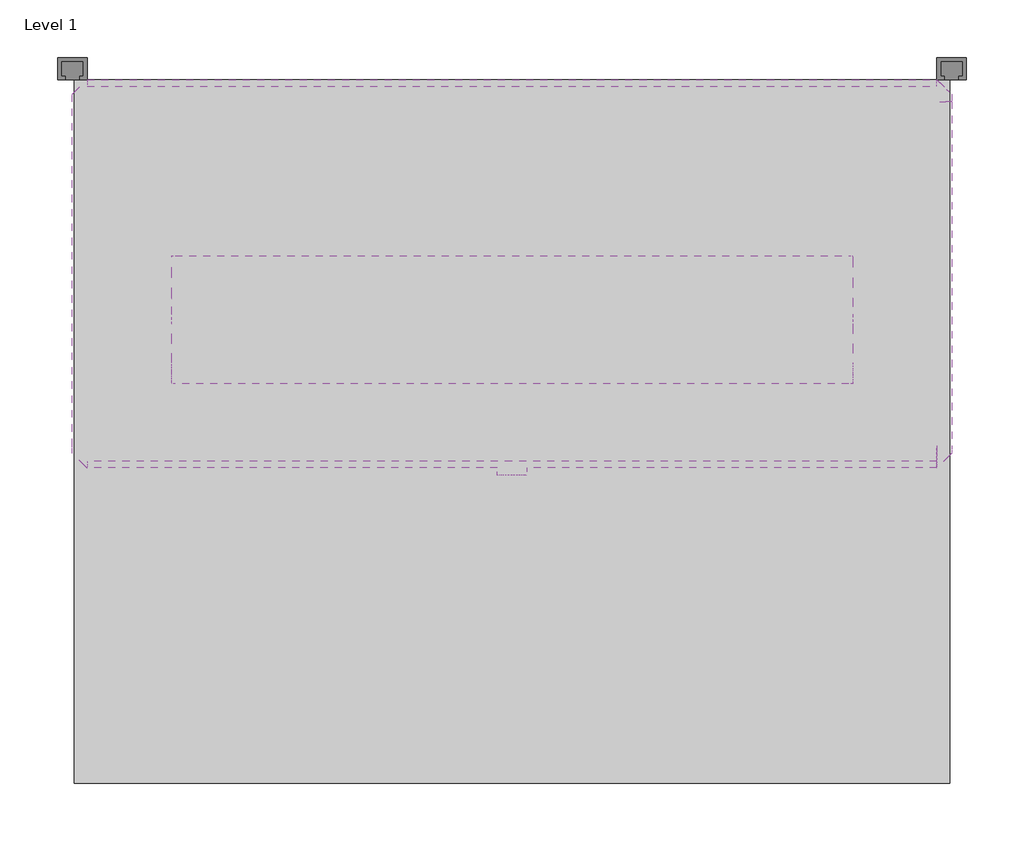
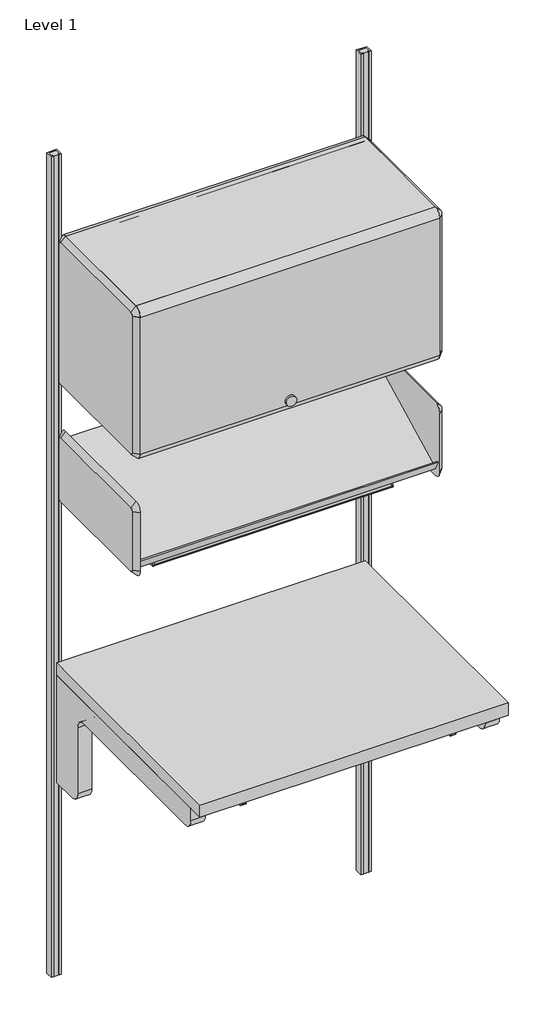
# One storey: 6 furniture elements, 1 light fixture.
"""IFC4 building model written with IfcOpenShell, lengths in millimetres."""

from ifc_helpers import new_model, si_unit, origin, place, context, project, spatial, transform, mapped, element, save
from components import furniture_236c058c, furniture_bdfcc150, furniture_0d5b5ade, furniture_e3423f84, furniture_ea425779, light_fixture_b8a277cb

model = new_model("IFC4")

# Units and contexts
model_context = context("Model", 3, world=origin())
ifc_project = project(units=[si_unit("LENGTHUNIT", "METRE", prefix="MILLI")], contexts=[model_context])

# Site, building, storey
site = spatial("IfcSite", under=ifc_project)
building = spatial("IfcBuilding", under=site)
storey = spatial("IfcBuildingStorey", under=building, Name="Level 1", Elevation=0.0)

# Furniture
placement = place(None, origin())
furniture_shape = furniture_236c058c(model_context)
element("IfcFurniture", 1, ObjectType="HermanMiller_CoStruc_C2141_Heavy-DutyWorkSurface : 24\"D x 30\"W Lam", at=placement, inside=storey, context=model_context, shape_type="MappedRepresentation", body=[
    mapped(furniture_shape, transform((304.8, -196.85, 0.0), x_axis=(1.0, 0.0, 0.0), y_axis=(0.0, 1.0, 0.0), z_axis=(0.0, 0.0, 1.0))),
])
furniture_2_shape = furniture_bdfcc150(model_context)
element("IfcFurniture", 2, ObjectType="HermanMiller_CoStruc_C2140H_WorkSurfaceSupport_Heavy Duty : 11\"H x 24\"D x 30\"W", at=placement, inside=storey, context=model_context, shape_type="MappedRepresentation", body=[
    mapped(furniture_2_shape, transform((381.0, -196.85, 0.0), x_axis=(1.0, 0.0, 0.0), y_axis=(0.0, 1.0, 0.0), z_axis=(0.0, 0.0, 1.0))),
])
furniture_3_shape = furniture_0d5b5ade(model_context)
element("IfcFurniture", 3, ObjectType="HermanMiller_ActionOffice_A3352_B-StyleFlipperDoorUnit : 15 1/2\"H x 13\"D x 30\"W", at=placement, inside=storey, context=model_context, shape_type="MappedRepresentation", body=[
    mapped(furniture_3_shape, transform((381.0, -200.025, 0.0), x_axis=(1.0, 0.0, 0.0), y_axis=(0.0, 1.0, 0.0), z_axis=(0.0, 0.0, 1.0))),
])
furniture_4_shape = furniture_e3423f84(model_context)
element("IfcFurniture", 4, ObjectType="HermanMiller_ActionOffice_A3220_B-StyleStorageDisplay : Display 13\"D x 30\"W", at=placement, inside=storey, context=model_context, shape_type="MappedRepresentation", body=[
    mapped(furniture_4_shape, transform((504.9420045, -200.025, 0.0), x_axis=(1.0, 0.0, 0.0), y_axis=(0.0, 1.0, 0.0), z_axis=(0.0, 0.0, 1.0))),
])
furniture_5_shape = furniture_ea425779(model_context)
element("IfcFurniture", 5, ObjectType="HermanMiller_ActionOffice_AO213_WallStrip : 84\"H", at=placement, inside=storey, context=model_context, shape_type="MappedRepresentation", body=[
    mapped(furniture_5_shape, transform((762.0, 0.0, 0.0), x_axis=(1.0, 0.0, 0.0), y_axis=(0.0, 1.0, 0.0), z_axis=(0.0, 0.0, 1.0))),
])
element("IfcFurniture", 6, ObjectType="HermanMiller_ActionOffice_AO213_WallStrip : 84\"H", at=placement, inside=storey, context=model_context, shape_type="MappedRepresentation", body=[
    mapped(furniture_5_shape, transform((0.0, 0.0, 0.0), x_axis=(1.0, 0.0, 0.0), y_axis=(0.0, 1.0, 0.0), z_axis=(0.0, 0.0, 1.0))),
])

# Light fixture
light_fixture_shape = light_fixture_b8a277cb(model_context)
element("IfcLightFixture", 7, ObjectType="HermanMiller_SupplementalProducts_G6136_UtilityTaskLight : AO Etho Canvas 30W", at=placement, inside=storey, context=model_context, shape_type="MappedRepresentation", body=[
    mapped(light_fixture_shape, transform((381.0, -227.0125, 0.0), x_axis=(1.0, 0.0, 0.0), y_axis=(0.0, 1.0, 0.0), z_axis=(0.0, 0.0, 1.0))),
])

save(model, "model.ifc")
